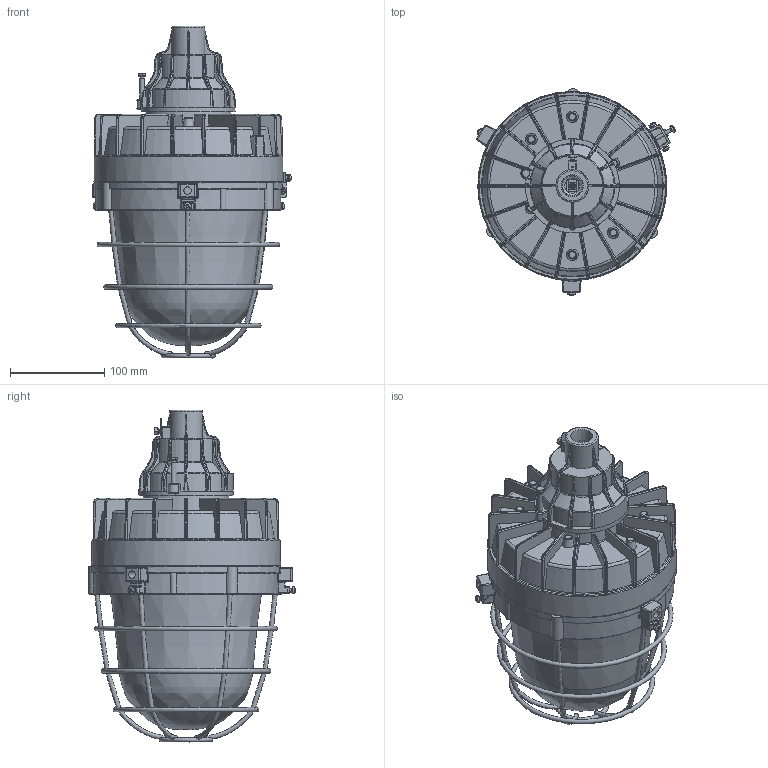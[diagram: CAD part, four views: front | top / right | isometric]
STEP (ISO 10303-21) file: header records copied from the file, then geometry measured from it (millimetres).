
FILE_DESCRIPTION((''),'2;1');
FILE_NAME('\\FILE-SERVER\cortem_klient\Чертежи ПО ИСХ.НОМЕРАМ\Стандарт\СГЖ01\СГЖ01-4960С_Т_12DC_Внешний контур_1.stp','2017-04-18T09:25:46',('A.I.Eshenko'),(''),'Autodesk Inventor 2012','Autodesk Inventor 2012','');
FILE_SCHEMA(('AUTOMOTIVE_DESIGN { 1 0 10303 214 1 1 1 1 }'));
Length unit declared in the file: millimetre
Products named in the file (1): СГЖ01-4960С_Т_12DC_Внешний контур_1
Bounding box: 210.58 x 219.67 x 352.41 mm (x, y, z)
Surface area: 581970.3 mm2 (no closed solid volume)
Topology: 0 solids, 20 shells, 1925 faces, 5050 edges, 3218 vertices
Faces by surface type: plane 732, cylinder 399, cone 285, bspline 273, torus 191, revolution 24, sphere 21
Full cylindrical faces by diameter (mm): 3 x3, 3.2 x3, 3.242 x11, 3.5 x1, 3.65 x6, 4 x6, 4.134 x3, 4.4 x2, 4.567 x2, 5 x2, 5.1 x1, 6 x9, 6.5 x1, 6.7 x2, 8 x3, 9 x2, 12 x2, 14 x2, 16 x1, 17 x1, 22.631 x1, 23.35 x1, 25 x1, 35 x1, 59 x3, 61.671 x1, 64.5 x1, 78.7 x1, 80 x1, 81.9 x1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
Entity records: 80981 total; most frequent: CARTESIAN_POINT 34552, ORIENTED_EDGE 9538, DIRECTION 8986, EDGE_CURVE 4769, AXIS2_PLACEMENT_3D 3698, VERTEX_POINT 3151, EDGE_LOOP 2260, FACE_OUTER_BOUND 1923
